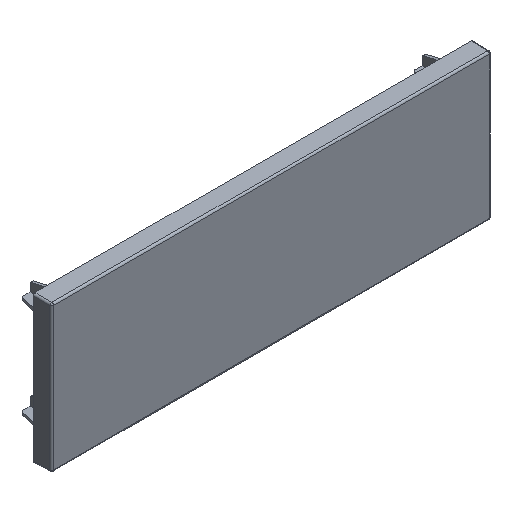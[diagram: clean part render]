
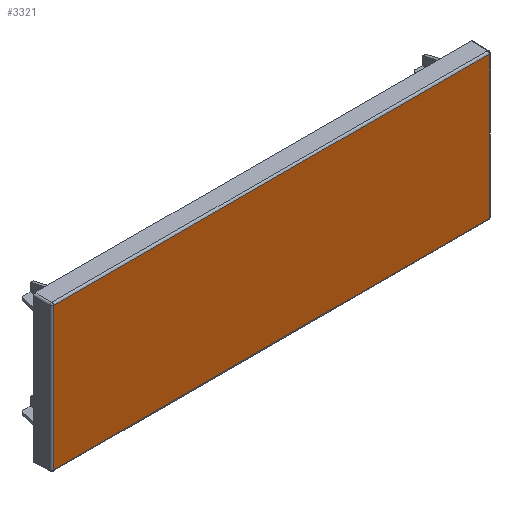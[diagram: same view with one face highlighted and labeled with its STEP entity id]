
A CAD part, isometric view. The second image highlights one B-rep face of the part: STEP entity #3321.
In plain terms, the highlighted planar face has unit normal (0, -1, 0).
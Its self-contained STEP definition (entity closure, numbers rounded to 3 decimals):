
#48 = DIRECTION ( 'NONE',  ( 1., 0., 0. ) ) ;
#207 = CARTESIAN_POINT ( 'NONE',  ( 59.421, 0., 19.421 ) ) ;
#577 = EDGE_CURVE ( 'NONE', #4908, #1269, #1745, .T. ) ;
#941 = VERTEX_POINT ( 'NONE', #5051 ) ;
#979 = CARTESIAN_POINT ( 'NONE',  ( -59.421, 0., -19.913 ) ) ;
#1077 = DIRECTION ( 'NONE',  ( -1., 0., 0. ) ) ;
#1112 = FACE_OUTER_BOUND ( 'NONE', #1770, .T. ) ;
#1120 = CARTESIAN_POINT ( 'NONE',  ( 59.421, 0., 19.913 ) ) ;
#1269 = VERTEX_POINT ( 'NONE', #4913 ) ;
#1291 = EDGE_CURVE ( 'NONE', #1269, #941, #3493, .T. ) ;
#1398 = LINE ( 'NONE', #2232, #2624 ) ;
#1549 = AXIS2_PLACEMENT_3D ( 'NONE', #4716, #1861, #3491 ) ;
#1745 = LINE ( 'NONE', #979, #3767 ) ;
#1770 = EDGE_LOOP ( 'NONE', ( #3982, #4367, #3793, #4013 ) ) ;
#1861 = DIRECTION ( 'NONE',  ( 0., -1., 0. ) ) ;
#1937 = CARTESIAN_POINT ( 'NONE',  ( -59.421, 0., 19.421 ) ) ;
#2119 = EDGE_CURVE ( 'NONE', #3217, #4908, #1398, .T. ) ;
#2173 = LINE ( 'NONE', #1120, #2980 ) ;
#2232 = CARTESIAN_POINT ( 'NONE',  ( -59.913, 0., 19.421 ) ) ;
#2624 = VECTOR ( 'NONE', #1077, 1000. ) ;
#2717 = VECTOR ( 'NONE', #48, 1000. ) ;
#2778 = DIRECTION ( 'NONE',  ( 0., 0., 1. ) ) ;
#2980 = VECTOR ( 'NONE', #2778, 1000. ) ;
#3069 = PLANE ( 'NONE',  #1549 ) ;
#3217 = VERTEX_POINT ( 'NONE', #207 ) ;
#3321 = ADVANCED_FACE ( 'NONE', ( #1112 ), #3069, .T. ) ;
#3491 = DIRECTION ( 'NONE',  ( 0., 0., -1. ) ) ;
#3493 = LINE ( 'NONE', #4054, #2717 ) ;
#3767 = VECTOR ( 'NONE', #4447, 1000. ) ;
#3793 = ORIENTED_EDGE ( 'NONE', *, *, #1291, .T. ) ;
#3955 = EDGE_CURVE ( 'NONE', #941, #3217, #2173, .T. ) ;
#3982 = ORIENTED_EDGE ( 'NONE', *, *, #2119, .T. ) ;
#4013 = ORIENTED_EDGE ( 'NONE', *, *, #3955, .T. ) ;
#4054 = CARTESIAN_POINT ( 'NONE',  ( 59.913, 0., -19.421 ) ) ;
#4367 = ORIENTED_EDGE ( 'NONE', *, *, #577, .T. ) ;
#4447 = DIRECTION ( 'NONE',  ( 0., 0., -1. ) ) ;
#4716 = CARTESIAN_POINT ( 'NONE',  ( 0., 0., 0. ) ) ;
#4908 = VERTEX_POINT ( 'NONE', #1937 ) ;
#4913 = CARTESIAN_POINT ( 'NONE',  ( -59.421, 0., -19.421 ) ) ;
#5051 = CARTESIAN_POINT ( 'NONE',  ( 59.421, 0., -19.421 ) ) ;
